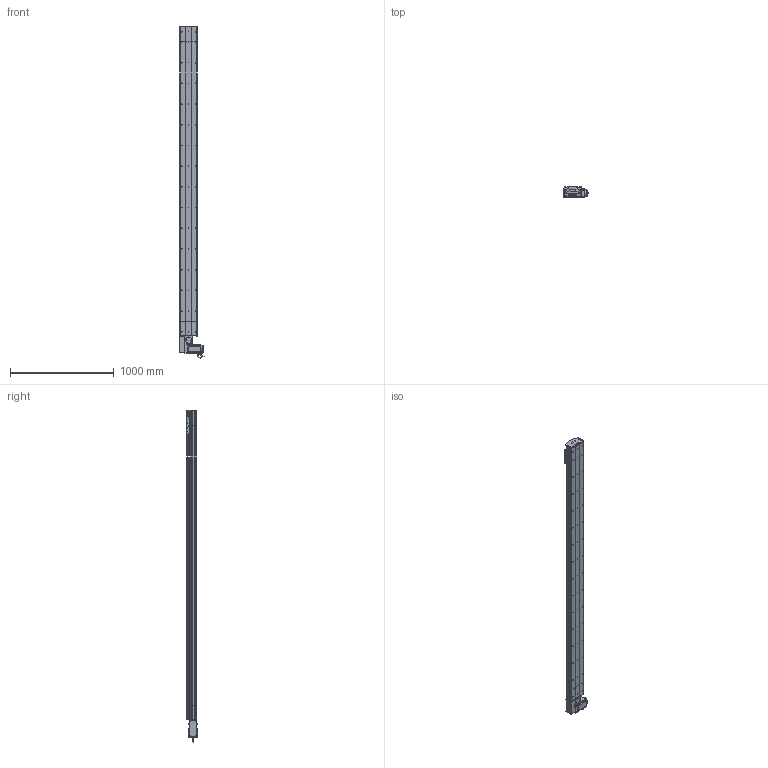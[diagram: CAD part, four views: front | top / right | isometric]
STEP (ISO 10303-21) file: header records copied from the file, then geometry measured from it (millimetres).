
FILE_DESCRIPTION (( 'STEP AP214' ), '1' );
FILE_NAME ('D17 TBH RH S2700.STEP', '2010-06-30T08:51:42', ( 'Christophe Gaillard' ), ( 'SGA' ), 'SwSTEP 2.0', 'SolidWorks 2010', '' );
FILE_SCHEMA (( 'AUTOMOTIVE_DESIGN' ));
Length unit declared in the file: millimetre
Products named in the file (40): couroie head D17_Default; tete d''axe poulie D17B; corp tail D17B+100_Default; Tail D17B+100_Default; Renvoi RH_Default; cache arbre D17_Default; vis M5 L70_Default; Conecteur_Default; Conecteur2_Default; Vis M5 L16-2_Default; vis M5 L16_Default; Plaque racord D17_Default; codeur 90BLDC125-640; corps 90BLDC125A-640; avant 90BLDC125A-640; Moteur motionking 90BLDC125A-640; vis M5 L12_Default; vis M5 L25_Default; vis M5 L8 90°_Default; couvercle D17B_Default; guide D17; Chariot D17; chariot D17S_Default; Couroie tail D17B_Default; poulie tail_Default; plaque de  bout tail D17B_Default; Rail D17B; D17 TBH RH S2700; corp D17B 2700_Default; Couroie+ rail D17 Course 2700 ; course 2700 D17B_Default; corpl head D17 _Default; Head RH D17B_Default; couvercle D17B course L2700_Default; Arbre+rail head D17B; plaque de  bout head D17B RH_Default; couvercle D17B head_Default; poulie head_Default; vis M5 L5_Default; cache D17_Default
Assembly tree (70 placements, depth 4):
  D17 TBH RH S2700
    Head RH D17B_Default
      cache D17_Default  x2
      Moteur motionking 90BLDC125A-640
        corps 90BLDC125A-640
        Conecteur2_Default
        codeur 90BLDC125-640
        avant 90BLDC125A-640
        Conecteur_Default
      vis M5 L12_Default  x8
      vis M5 L70_Default  x4
      vis M5 L5_Default  x4
      corpl head D17 _Default
      cache arbre D17_Default
      Vis M5 L16-2_Default  x4
      Renvoi RH_Default
      vis M5 L25_Default  x2
      couroie head D17_Default
      plaque de  bout head D17B RH_Default
      vis M5 L16_Default  x2
      Arbre+rail head D17B
      couvercle D17B head_Default
      poulie head_Default
      Plaque racord D17_Default
    Tail D17B+100_Default
      vis M5 L12_Default  x4
      vis M5 L8 90°_Default  x2
      corp tail D17B+100_Default
      poulie tail_Default
      Rail D17B
      vis M5 L25_Default  x2
      tete d''axe poulie D17B
      Couroie tail D17B_Default
      couvercle D17B_Default
      plaque de  bout tail D17B_Default
    course 2700 D17B_Default
      couvercle D17B course L2700_Default
      Couroie+ rail D17 Course 2700 
      corp D17B 2700_Default
    chariot D17S_Default
      vis M5 L12_Default  x4
      Chariot D17
      guide D17  x2
Bounding box: 245.2 x 105.65 x 3206.95 mm (x, y, z)
Volume: 17941127.8 mm3; surface area: 5210934.6 mm2
Topology: 94 solids, 94 shells, 2765 faces, 7059 edges, 4542 vertices
Faces by surface type: plane 1611, cylinder 841, bspline 136, cone 88, torus 85, sphere 4
Entity records: 87490 total; most frequent: CARTESIAN_POINT 25647, ORIENTED_EDGE 10890, DIRECTION 10310, EDGE_CURVE 5445, VERTEX_POINT 3566, VECTOR 3552, LINE 3552, AXIS2_PLACEMENT_3D 3379
